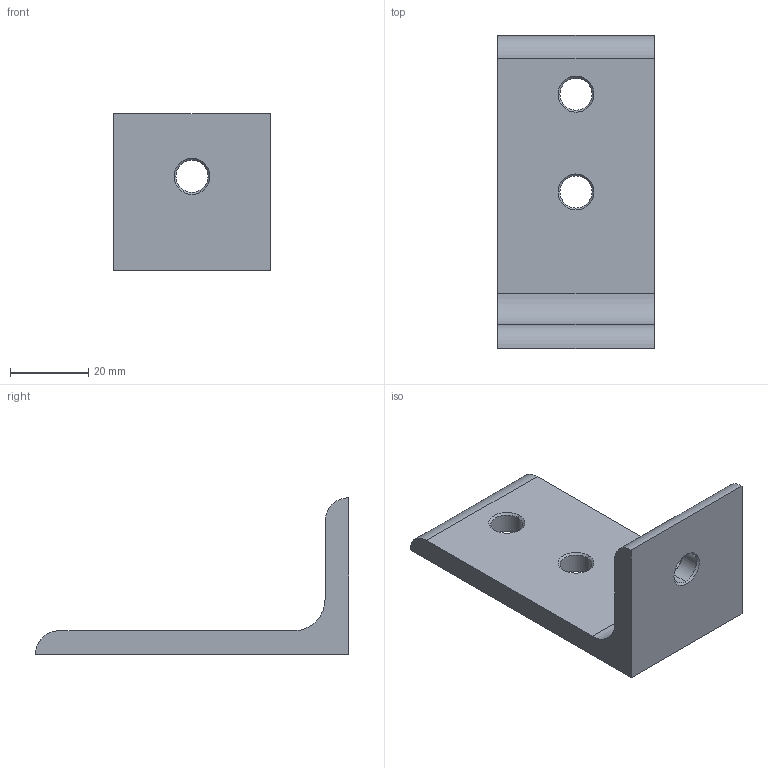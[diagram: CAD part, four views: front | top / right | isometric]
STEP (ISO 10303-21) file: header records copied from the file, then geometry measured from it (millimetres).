
FILE_DESCRIPTION (( 'STEP AP203' ), '1' );
FILE_NAME ('114545AL.STEP', '2017-04-27T11:09:33', ( '' ), ( '' ), 'SwSTEP 2.0', 'SolidWorks 2014', '' );
FILE_SCHEMA (( 'CONFIG_CONTROL_DESIGN' ));
Length unit declared in the file: millimetre
Products named in the file (1): 114545AL
Bounding box: 40 x 80 x 40 mm (x, y, z)
Volume: 26320.6 mm3; surface area: 10724.7 mm2
Topology: 1 solids, 1 shells, 27 faces, 63 edges, 38 vertices
Faces by surface type: cone 12, cylinder 9, plane 6
Entity records: 860 total; most frequent: DIRECTION 149, CARTESIAN_POINT 129, ORIENTED_EDGE 126, EDGE_CURVE 63, AXIS2_PLACEMENT_3D 58, VERTEX_POINT 38, LINE 33, VECTOR 33
